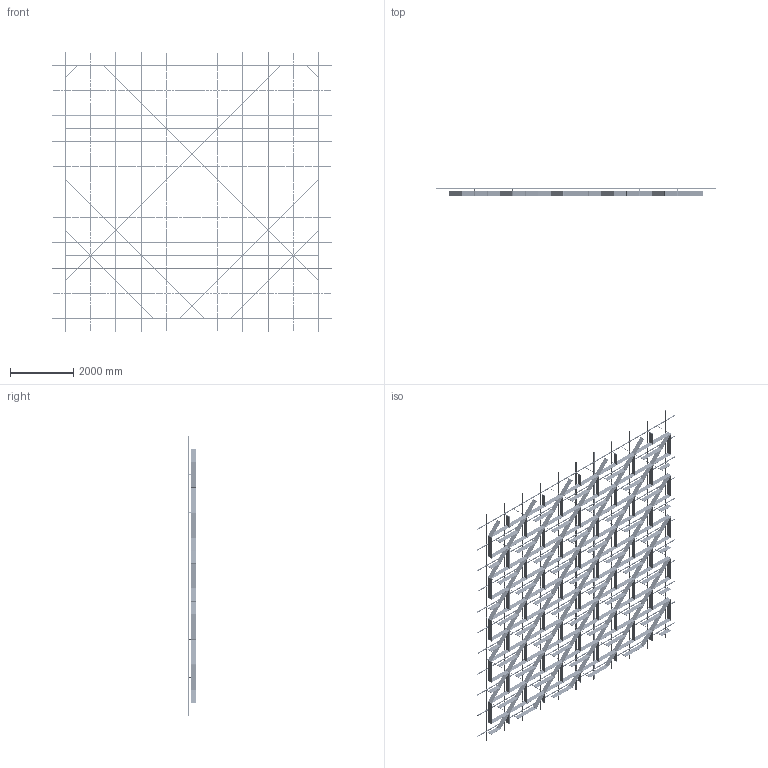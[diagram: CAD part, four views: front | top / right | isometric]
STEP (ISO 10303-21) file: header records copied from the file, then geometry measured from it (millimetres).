
FILE_DESCRIPTION (( 'STEP AP214' ), '1' );
FILE_NAME ('OPT_Var5.STEP', '2024-04-26T06:34:45', ( '' ), ( '' ), 'SwSTEP 2.0', 'SolidWorks 2020', '' );
FILE_SCHEMA (( 'AUTOMOTIVE_DESIGN' ));
Length unit declared in the file: millimetre
Products named in the file (5): Ñèñòåìà â çîíå 8000õ8000; SS.SEMA.2400 - Ñèìà-ïðîôèëü — îáðåçàí 1600; Varp5; OPT_Var5; SS.SEMA.2400 - Ñèìà-ïðîôèëü
Assembly tree (90 placements, depth 3):
  OPT_Var5
    Ñèñòåìà â çîíå 8000õ8000
      SS.SEMA.2400 - Ñèìà-ïðîôèëü  x66
      SS.SEMA.2400 - Ñèìà-ïðîôèëü — îáðåçàí 1600  x22
    Varp5
Bounding box: 8800 x 253 x 8800 mm (x, y, z)
Volume: 336814239.5 mm3; surface area: 122538563.3 mm2
Topology: 1508 solids, 1508 shells, 24940 faces, 64364 edges, 42440 vertices
Faces by surface type: cylinder 13778, plane 11162
Entity records: 236869 total; most frequent: CARTESIAN_POINT 74194, ORIENTED_EDGE 35576, DIRECTION 19234, EDGE_CURVE 17788, B_SPLINE_CURVE_WITH_KNOTS 12960, VERTEX_POINT 11848, AXIS2_PLACEMENT_3D 9368, EDGE_LOOP 8946
